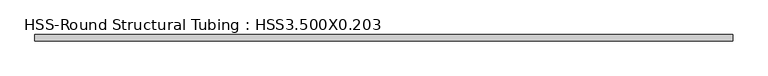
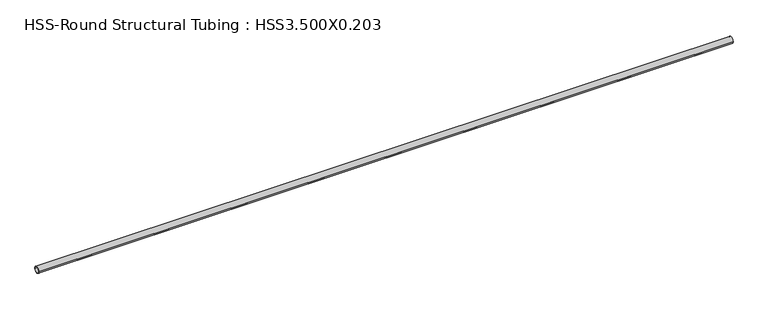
"""IFC4 building model written with IfcOpenShell, lengths in millimetres: beam geometry, HSS-Round Structural Tubing : HSS3.500X0.203."""

from ifc_helpers import new_model, si_unit, point, frame, origin, origin_2d, place, context, project, spatial, circle_curve, trimmed, segment, composite_curve, outline, extrude, source, transform, mapped, element, save


def hss_round_structural_tubing_hss3_500x0_203_697ad0ac(model_context):
    return source(origin(), model_context, "Body", "SweptSolid", [
        extrude(outline(composite_curve([segment(trimmed(circle_curve(origin_2d(), 44.45), [point((-44.45, 0.0))], [point((44.45, 0.0))], False, "CARTESIAN"), True, "CONTINUOUS"), segment(trimmed(circle_curve(origin_2d(), 44.45), [point((44.45, 0.0))], [point((-44.45, 0.0))], False, "CARTESIAN"), True, "CONTINUOUS")], self_intersect=False), holes=[composite_curve([segment(trimmed(circle_curve(origin_2d(), 39.6494), [point((39.6494, 0.0))], [point((-39.6494, 0.0))], True, "CARTESIAN"), True, "CONTINUOUS"), segment(trimmed(circle_curve(origin_2d(), 39.6494), [point((-39.6494, 0.0))], [point((39.6494, 0.0))], True, "CARTESIAN"), True, "CONTINUOUS")], self_intersect=False)]), frame((-4687.4555152, 0.0, 0.0), z_axis=(1.0, 0.0, 0.0), x_axis=(0.0, 1.0, 0.0)), (0.0, 0.0, 1.0), 9453.8771637),
    ])


if __name__ == "__main__":
    model = new_model("IFC4")
    model_context = context("Model", 3, world=origin())
    ifc_project = project(units=[si_unit("LENGTHUNIT", "METRE", prefix="MILLI")], contexts=[model_context])
    site = spatial("IfcSite", under=ifc_project)
    building = spatial("IfcBuilding", under=site)
    placement = place(None, origin())
    hss_round_structural_tubing_hss3_500x0_203_shape = hss_round_structural_tubing_hss3_500x0_203_697ad0ac(model_context)
    element("IfcBeam", 1, ObjectType="HSS-Round Structural Tubing : HSS3.500X0.203", at=placement, inside=building, context=model_context, shape_type="MappedRepresentation", body=[
        mapped(hss_round_structural_tubing_hss3_500x0_203_shape, transform((0.0, 0.0, 0.0), x_axis=(1.0, 0.0, 0.0), y_axis=(0.0, 1.0, 0.0), z_axis=(0.0, 0.0, 1.0))),
    ])
    save(model, "model.ifc")
